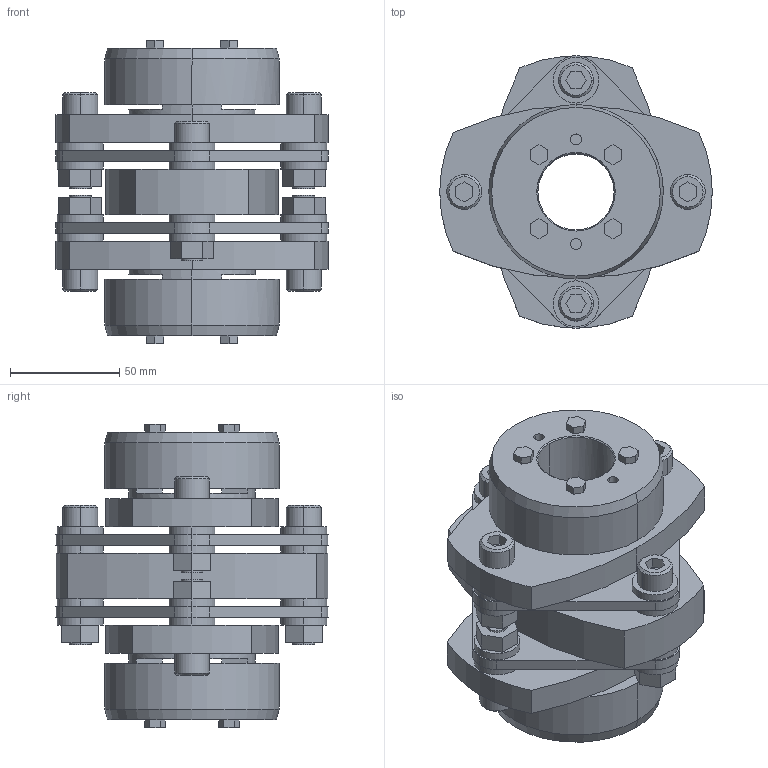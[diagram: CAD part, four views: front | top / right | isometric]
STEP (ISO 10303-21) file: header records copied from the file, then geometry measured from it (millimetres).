
FILE_DESCRIPTION((''),'2;1');
FILE_NAME('LCD-125T7-35×35.stp','2011-09-07T10:14:25',(''),(''),'AutoCAD STEP 2000i','AutoCAD 2000i',', , ');
FILE_SCHEMA(('CONFIG_CONTROL_DESIGN'));
Length unit declared in the file: millimetre
Products named in the file (7): LCD-125T7-35×35; 忣兜1; LC125T7-T035-1; LC125T7-T035; LC125T7-T032-1; LC125T7-T032; LCD125-ITA
Assembly tree (6 placements, depth 2):
  LCD-125T7-35×35
    忣兜1
    LC125T7-T035-1
    LC125T7-T035
    LC125T7-T032-1
    LC125T7-T032
    LCD125-ITA
Bounding box: 125 x 124.91 x 139 mm (x, y, z)
Volume: 659655 mm3; surface area: 137556 mm2
Topology: 1 solids, 1 shells, 334 faces, 818 edges, 538 vertices
Faces by surface type: plane 190, cylinder 120, cone 24
Entity records: 10099 total; most frequent: DIRECTION 1782, CARTESIAN_POINT 1697, ORIENTED_EDGE 1636, EDGE_CURVE 818, AXIS2_PLACEMENT_3D 623, VERTEX_POINT 538, VECTOR 536, LINE 536
